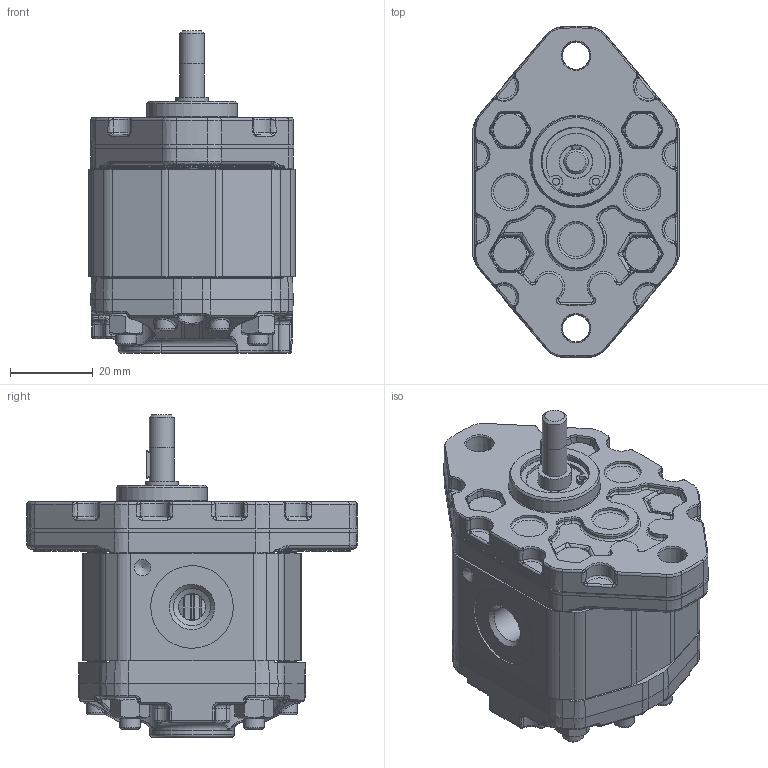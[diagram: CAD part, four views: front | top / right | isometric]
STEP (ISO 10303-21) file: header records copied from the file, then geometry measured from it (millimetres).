
FILE_DESCRIPTION((''),'2;1');
FILE_NAME('\\Venus\ut\Dati UT\UT\3d_marzocchi\STEP\TIPO 0.25-0.5\Parte6.stp','2017-05-03T16:43:07',('p7gat0'),(''),'Autodesk Inventor 2013','Autodesk Inventor 2013','');
FILE_SCHEMA(('AUTOMOTIVE_DESIGN { 1 0 10303 214 1 1 1 1 }'));
Length unit declared in the file: millimetre
Products named in the file (1): Parte6
Bounding box: 50 x 80.28 x 78 mm (x, y, z)
Volume: 124415 mm3; surface area: 36833.3 mm2
Topology: 1 solids, 36 shells, 2245 faces, 5550 edges, 3341 vertices
Faces by surface type: cylinder 636, plane 595, bspline 473, torus 314, cone 198, sphere 29
Full cylindrical faces by diameter (mm): 1.7 x2, 3 x8, 4 x1, 5 x8, 5.5 x8, 6 x2, 6.5 x6, 6.9 x4, 7 x2, 8 x6, 8.4 x1, 9 x2, 10.2 x1, 12.5 x1, 16 x2, 16.5 x1, 17.2 x1, 20 x2, 22 x1
Entity records: 100209 total; most frequent: CARTESIAN_POINT 48761, ORIENTED_EDGE 10542, DIRECTION 10176, EDGE_CURVE 5271, AXIS2_PLACEMENT_3D 4190, VERTEX_POINT 3282, EDGE_LOOP 2496, FACE_OUTER_BOUND 2245
